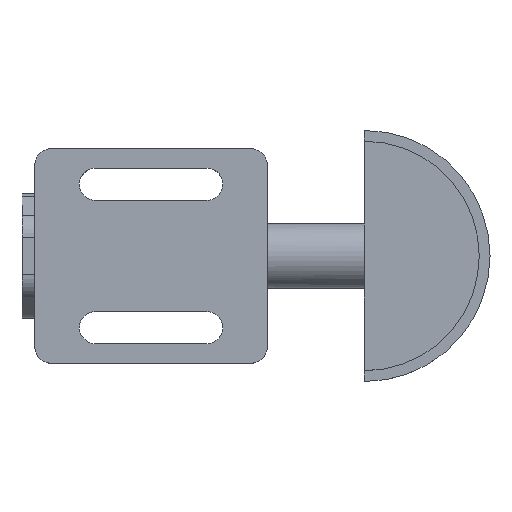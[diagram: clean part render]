
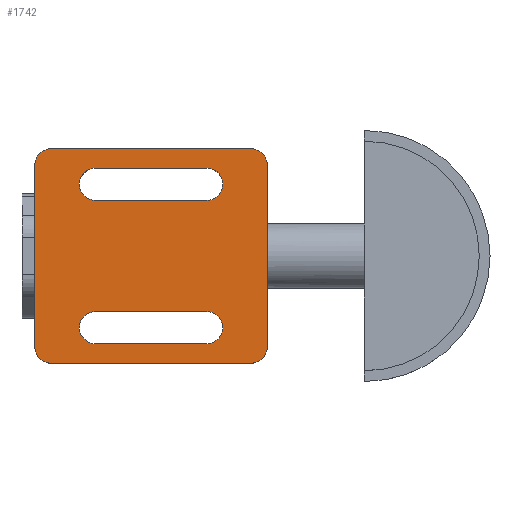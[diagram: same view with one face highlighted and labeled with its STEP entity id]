
A CAD part, top view. The second image highlights one B-rep face of the part: STEP entity #1742.
In plain terms, the highlighted planar face has unit normal (0, 0, 1).
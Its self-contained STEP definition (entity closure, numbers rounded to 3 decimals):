
#7 = VECTOR ( 'NONE', #1406, 1000. ) ;
#55 = VECTOR ( 'NONE', #1882, 1000. ) ;
#62 = ORIENTED_EDGE ( 'NONE', *, *, #763, .T. ) ;
#71 = CARTESIAN_POINT ( 'NONE',  ( 31., 44.5, 35. ) ) ;
#77 = DIRECTION ( 'NONE',  ( 0., -1., 0. ) ) ;
#81 = VERTEX_POINT ( 'NONE', #1123 ) ;
#85 = CARTESIAN_POINT ( 'NONE',  ( 48., 45., 35. ) ) ;
#87 = CARTESIAN_POINT ( 'NONE',  ( 0., 0., 35. ) ) ;
#91 = AXIS2_PLACEMENT_3D ( 'NONE', #297, #1038, #1306 ) ;
#105 = CARTESIAN_POINT ( 'NONE',  ( 31., 40., 35. ) ) ;
#134 = CIRCLE ( 'NONE', #196, 4.5 ) ;
#136 = ORIENTED_EDGE ( 'NONE', *, *, #1418, .T. ) ;
#141 = EDGE_CURVE ( 'NONE', #513, #330, #134, .T. ) ;
#150 = CIRCLE ( 'NONE', #529, 4.5 ) ;
#153 = EDGE_CURVE ( 'NONE', #372, #1276, #1256, .T. ) ;
#158 = VERTEX_POINT ( 'NONE', #1846 ) ;
#164 = EDGE_CURVE ( 'NONE', #1276, #1798, #811, .T. ) ;
#165 = DIRECTION ( 'NONE',  ( 0., 0., 1. ) ) ;
#171 = ORIENTED_EDGE ( 'NONE', *, *, #1664, .T. ) ;
#196 = AXIS2_PLACEMENT_3D ( 'NONE', #105, #1729, #1007 ) ;
#207 = CARTESIAN_POINT ( 'NONE',  ( 43., 50., 35. ) ) ;
#220 = EDGE_CURVE ( 'NONE', #81, #535, #418, .T. ) ;
#235 = CARTESIAN_POINT ( 'NONE',  ( 31., -4.5, 35. ) ) ;
#297 = CARTESIAN_POINT ( 'NONE',  ( 0., 40., 35. ) ) ;
#308 = ORIENTED_EDGE ( 'NONE', *, *, #525, .F. ) ;
#319 = ORIENTED_EDGE ( 'NONE', *, *, #220, .F. ) ;
#330 = VERTEX_POINT ( 'NONE', #596 ) ;
#338 = CARTESIAN_POINT ( 'NONE',  ( 31., 0., 35. ) ) ;
#342 = EDGE_LOOP ( 'NONE', ( #800, #136, #1547, #62, #171, #807, #1300, #640 ) ) ;
#350 = LINE ( 'NONE', #1409, #1229 ) ;
#371 = VECTOR ( 'NONE', #586, 1000. ) ;
#372 = VERTEX_POINT ( 'NONE', #484 ) ;
#374 = AXIS2_PLACEMENT_3D ( 'NONE', #1544, #1378, #77 ) ;
#388 = DIRECTION ( 'NONE',  ( 1., 0., 0. ) ) ;
#395 = EDGE_CURVE ( 'NONE', #330, #855, #524, .T. ) ;
#407 = AXIS2_PLACEMENT_3D ( 'NONE', #1663, #1100, #1081 ) ;
#418 = LINE ( 'NONE', #1458, #568 ) ;
#439 = EDGE_CURVE ( 'NONE', #629, #1129, #1379, .T. ) ;
#478 = DIRECTION ( 'NONE',  ( 0., 1., 0. ) ) ;
#484 = CARTESIAN_POINT ( 'NONE',  ( 48., -5., 35. ) ) ;
#513 = VERTEX_POINT ( 'NONE', #559 ) ;
#524 = LINE ( 'NONE', #71, #693 ) ;
#525 = EDGE_CURVE ( 'NONE', #1180, #158, #1137, .T. ) ;
#529 = AXIS2_PLACEMENT_3D ( 'NONE', #338, #165, #478 ) ;
#533 = CARTESIAN_POINT ( 'NONE',  ( -17., 45., 35. ) ) ;
#535 = VERTEX_POINT ( 'NONE', #235 ) ;
#559 = CARTESIAN_POINT ( 'NONE',  ( 31., 35.5, 35. ) ) ;
#565 = VERTEX_POINT ( 'NONE', #533 ) ;
#568 = VECTOR ( 'NONE', #388, 1000. ) ;
#573 = CARTESIAN_POINT ( 'NONE',  ( -17., 45., 35. ) ) ;
#586 = DIRECTION ( 'NONE',  ( -1., 0., 0. ) ) ;
#596 = CARTESIAN_POINT ( 'NONE',  ( 31., 44.5, 35. ) ) ;
#617 = CIRCLE ( 'NONE', #91, 4.5 ) ;
#629 = VERTEX_POINT ( 'NONE', #1554 ) ;
#631 = EDGE_LOOP ( 'NONE', ( #319, #696, #308, #966 ) ) ;
#640 = ORIENTED_EDGE ( 'NONE', *, *, #153, .T. ) ;
#664 = DIRECTION ( 'NONE',  ( -1., 0., 0. ) ) ;
#670 = DIRECTION ( 'NONE',  ( 0., -1., 0. ) ) ;
#671 = FACE_BOUND ( 'NONE', #631, .T. ) ;
#682 = DIRECTION ( 'NONE',  ( 0., 0., 1. ) ) ;
#687 = DIRECTION ( 'NONE',  ( 0., 1., 0. ) ) ;
#693 = VECTOR ( 'NONE', #664, 1000. ) ;
#695 = CARTESIAN_POINT ( 'NONE',  ( 48., 45., 35. ) ) ;
#696 = ORIENTED_EDGE ( 'NONE', *, *, #881, .F. ) ;
#752 = VERTEX_POINT ( 'NONE', #1152 ) ;
#763 = EDGE_CURVE ( 'NONE', #565, #1562, #856, .T. ) ;
#800 = ORIENTED_EDGE ( 'NONE', *, *, #164, .T. ) ;
#802 = CARTESIAN_POINT ( 'NONE',  ( 31., 4.5, 35. ) ) ;
#807 = ORIENTED_EDGE ( 'NONE', *, *, #439, .T. ) ;
#808 = DIRECTION ( 'NONE',  ( 0., 1., 0. ) ) ;
#811 = CIRCLE ( 'NONE', #1666, 5. ) ;
#855 = VERTEX_POINT ( 'NONE', #1196 ) ;
#856 = LINE ( 'NONE', #573, #55 ) ;
#881 = EDGE_CURVE ( 'NONE', #158, #81, #1290, .T. ) ;
#896 = EDGE_CURVE ( 'NONE', #916, #565, #1014, .T. ) ;
#916 = VERTEX_POINT ( 'NONE', #1089 ) ;
#948 = CARTESIAN_POINT ( 'NONE',  ( -12., -10., 35. ) ) ;
#950 = AXIS2_PLACEMENT_3D ( 'NONE', #87, #682, #808 ) ;
#954 = DIRECTION ( 'NONE',  ( 1., 0., 0. ) ) ;
#966 = ORIENTED_EDGE ( 'NONE', *, *, #1035, .F. ) ;
#975 = CARTESIAN_POINT ( 'NONE',  ( 43., -5., 35. ) ) ;
#1007 = DIRECTION ( 'NONE',  ( 0., -1., 0. ) ) ;
#1014 = CIRCLE ( 'NONE', #1103, 5. ) ;
#1035 = EDGE_CURVE ( 'NONE', #535, #1180, #150, .T. ) ;
#1038 = DIRECTION ( 'NONE',  ( 0., 0., 1. ) ) ;
#1045 = AXIS2_PLACEMENT_3D ( 'NONE', #975, #1522, #1735 ) ;
#1081 = DIRECTION ( 'NONE',  ( 0., -1., 0. ) ) ;
#1089 = CARTESIAN_POINT ( 'NONE',  ( -12., 50., 35. ) ) ;
#1100 = DIRECTION ( 'NONE',  ( 0., 0., 1. ) ) ;
#1103 = AXIS2_PLACEMENT_3D ( 'NONE', #1279, #1560, #670 ) ;
#1123 = CARTESIAN_POINT ( 'NONE',  ( 0., -4.5, 35. ) ) ;
#1129 = VERTEX_POINT ( 'NONE', #1382 ) ;
#1137 = LINE ( 'NONE', #1721, #7 ) ;
#1138 = EDGE_CURVE ( 'NONE', #752, #513, #350, .T. ) ;
#1149 = LINE ( 'NONE', #1183, #371 ) ;
#1152 = CARTESIAN_POINT ( 'NONE',  ( 0., 35.5, 35. ) ) ;
#1180 = VERTEX_POINT ( 'NONE', #802 ) ;
#1183 = CARTESIAN_POINT ( 'NONE',  ( -12., 50., 35. ) ) ;
#1194 = ORIENTED_EDGE ( 'NONE', *, *, #1284, .F. ) ;
#1196 = CARTESIAN_POINT ( 'NONE',  ( 0., 44.5, 35. ) ) ;
#1229 = VECTOR ( 'NONE', #954, 1000. ) ;
#1240 = EDGE_CURVE ( 'NONE', #1129, #372, #1506, .T. ) ;
#1256 = LINE ( 'NONE', #695, #1399 ) ;
#1267 = FACE_OUTER_BOUND ( 'NONE', #342, .T. ) ;
#1276 = VERTEX_POINT ( 'NONE', #85 ) ;
#1279 = CARTESIAN_POINT ( 'NONE',  ( -12., 45., 35. ) ) ;
#1284 = EDGE_CURVE ( 'NONE', #855, #752, #617, .T. ) ;
#1289 = DIRECTION ( 'NONE',  ( 0., -1., 0. ) ) ;
#1290 = CIRCLE ( 'NONE', #950, 4.5 ) ;
#1300 = ORIENTED_EDGE ( 'NONE', *, *, #1240, .T. ) ;
#1306 = DIRECTION ( 'NONE',  ( 0., -1., 0. ) ) ;
#1369 = CARTESIAN_POINT ( 'NONE',  ( -17., -5., 35. ) ) ;
#1378 = DIRECTION ( 'NONE',  ( 0., 0., 1. ) ) ;
#1379 = LINE ( 'NONE', #948, #1725 ) ;
#1382 = CARTESIAN_POINT ( 'NONE',  ( 43., -10., 35. ) ) ;
#1399 = VECTOR ( 'NONE', #687, 1000. ) ;
#1404 = FACE_BOUND ( 'NONE', #1804, .T. ) ;
#1406 = DIRECTION ( 'NONE',  ( -1., 0., 0. ) ) ;
#1409 = CARTESIAN_POINT ( 'NONE',  ( 31., 35.5, 35. ) ) ;
#1418 = EDGE_CURVE ( 'NONE', #1798, #916, #1149, .T. ) ;
#1431 = ORIENTED_EDGE ( 'NONE', *, *, #1138, .F. ) ;
#1458 = CARTESIAN_POINT ( 'NONE',  ( 31., -4.5, 35. ) ) ;
#1506 = CIRCLE ( 'NONE', #1045, 5. ) ;
#1522 = DIRECTION ( 'NONE',  ( 0., 0., 1. ) ) ;
#1534 = DIRECTION ( 'NONE',  ( 1., 0., 0. ) ) ;
#1544 = CARTESIAN_POINT ( 'NONE',  ( 43., 45., 35. ) ) ;
#1547 = ORIENTED_EDGE ( 'NONE', *, *, #896, .T. ) ;
#1554 = CARTESIAN_POINT ( 'NONE',  ( -12., -10., 35. ) ) ;
#1560 = DIRECTION ( 'NONE',  ( 0., 0., 1. ) ) ;
#1562 = VERTEX_POINT ( 'NONE', #1369 ) ;
#1642 = ORIENTED_EDGE ( 'NONE', *, *, #395, .F. ) ;
#1663 = CARTESIAN_POINT ( 'NONE',  ( -12., -5., 35. ) ) ;
#1664 = EDGE_CURVE ( 'NONE', #1562, #629, #1771, .T. ) ;
#1666 = AXIS2_PLACEMENT_3D ( 'NONE', #1723, #1862, #1289 ) ;
#1693 = PLANE ( 'NONE',  #374 ) ;
#1721 = CARTESIAN_POINT ( 'NONE',  ( 31., 4.5, 35. ) ) ;
#1723 = CARTESIAN_POINT ( 'NONE',  ( 43., 45., 35. ) ) ;
#1725 = VECTOR ( 'NONE', #1534, 1000. ) ;
#1729 = DIRECTION ( 'NONE',  ( 0., 0., 1. ) ) ;
#1735 = DIRECTION ( 'NONE',  ( 0., -1., 0. ) ) ;
#1742 = ADVANCED_FACE ( 'NONE', ( #1404, #1267, #671 ), #1693, .T. ) ;
#1771 = CIRCLE ( 'NONE', #407, 5. ) ;
#1798 = VERTEX_POINT ( 'NONE', #207 ) ;
#1804 = EDGE_LOOP ( 'NONE', ( #1642, #1858, #1431, #1194 ) ) ;
#1846 = CARTESIAN_POINT ( 'NONE',  ( 0., 4.5, 35. ) ) ;
#1858 = ORIENTED_EDGE ( 'NONE', *, *, #141, .F. ) ;
#1862 = DIRECTION ( 'NONE',  ( 0., 0., 1. ) ) ;
#1882 = DIRECTION ( 'NONE',  ( 0., -1., 0. ) ) ;
